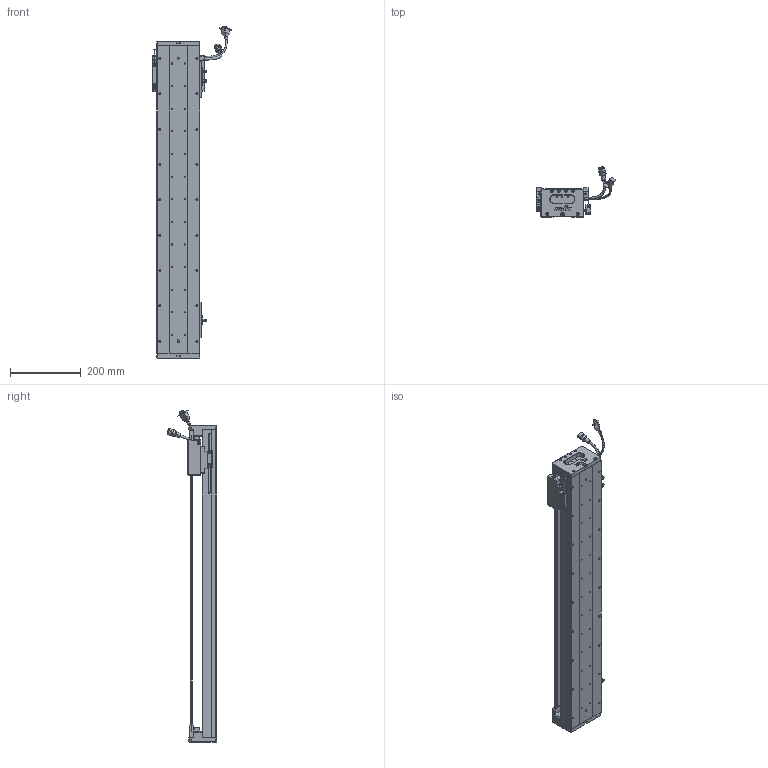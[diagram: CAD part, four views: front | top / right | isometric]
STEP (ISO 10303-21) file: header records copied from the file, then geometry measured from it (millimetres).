
FILE_DESCRIPTION (( 'STEP AP203' ), '1' );
FILE_NAME ('Z1-RY120D-1-L500-B-K.SLDASM_0700.step', '2021-05-17T03:45:15', ( '盈信电脑' ), ( '东莞市道滘镇水果街19号' ), 'SwSTEP 2.0', 'SolidWorks 2016', '' );
FILE_SCHEMA (( 'CONFIG_CONTROL_DESIGN' ));
Length unit declared in the file: millimetre
Products named in the file (37): Z1-RY120铝滑块（21款）; COVER; PBU_SHEET; SCALE; COVER-Part-1; SHIELDPLATE; HARNESS-Part-1; SCREW-M1.6-1; RY100FB-遵嫖萇覜茼え; SEAL-Part-1; SCREW-M1.7-1; HARNESS-Part-2; Z1-RY120-500-倰第菁釱_0700; Z1-RY120D-1-L500-B-K.SLDASM_0700; Z-RY120D詩湍奻揤裔; HOLDER0; SCREW-M1.7; 120-Z-臏賑輸盄裔(21遴); 080黍杅芛假蚾釱21遴; SCALE-Part-1; SCREW-M1.6; SCALE-Part-2; Z1-RY120-L500詩湍100mm遵_0700; Z-120詩湍傷裔啣; 覜茼ん672; PSLH080_PSLF2; LABEL; SCREW-M1.6-3; 榋妏寠巭燃_暯_M2_2; 140雄赽晤鎢ん堤盄; SEAL; 672嫖萇羲壽假蚾釱; LABEL-Part-1; Z-RY120D詩湍狟揤裔; 140蚥薯蝶輸; SCREW-M1.6-2; HARNESS
Assembly tree (43 placements, depth 4):
  Z1-RY120D-1-L500-B-K.SLDASM_0700
    Z1-RY120-500-倰第菁釱_0700
    覜茼ん672  x3
    672嫖萇羲壽假蚾釱  x2
    Z1-RY120铝滑块（21款）
    PSLH080_PSLF2
      SCALE
        SCALE-Part-1
        SCALE-Part-2
      HARNESS
        HARNESS-Part-1
        HARNESS-Part-2
      LABEL
        LABEL-Part-1
      COVER
        COVER-Part-1
      SEAL
        SEAL-Part-1
      榋妏寠巭燃_暯_M2_2
      SHIELDPLATE
      SCREW-M1.7
      SCREW-M1.7-1
      PBU_SHEET
      SCREW-M1.6
      SCREW-M1.6-1
      SCREW-M1.6-2
      SCREW-M1.6-3
      HOLDER0
    080黍杅芛假蚾釱21遴
    120-Z-臏賑輸盄裔(21遴)
    140雄赽晤鎢ん堤盄
    140蚥薯蝶輸  x2
    RY100FB-遵嫖萇覜茼え
    Z-120詩湍傷裔啣  x2
    Z-RY120D詩湍奻揤裔  x2
    Z-RY120D詩湍狟揤裔  x2
    Z1-RY120-L500詩湍100mm遵_0700
Bounding box: 222.88 x 140.94 x 939 mm (x, y, z)
Volume: 2448770.3 mm3; surface area: 855381.2 mm2
Topology: 38 solids, 38 shells, 2659 faces, 7156 edges, 4528 vertices
Faces by surface type: cylinder 1182, plane 1103, cone 252, torus 69, bspline 53
Entity records: 79001 total; most frequent: CARTESIAN_POINT 21008, ORIENTED_EDGE 11336, DIRECTION 11130, EDGE_CURVE 5668, AXIS2_PLACEMENT_3D 4042, VERTEX_POINT 3648, VECTOR 3046, LINE 3046
